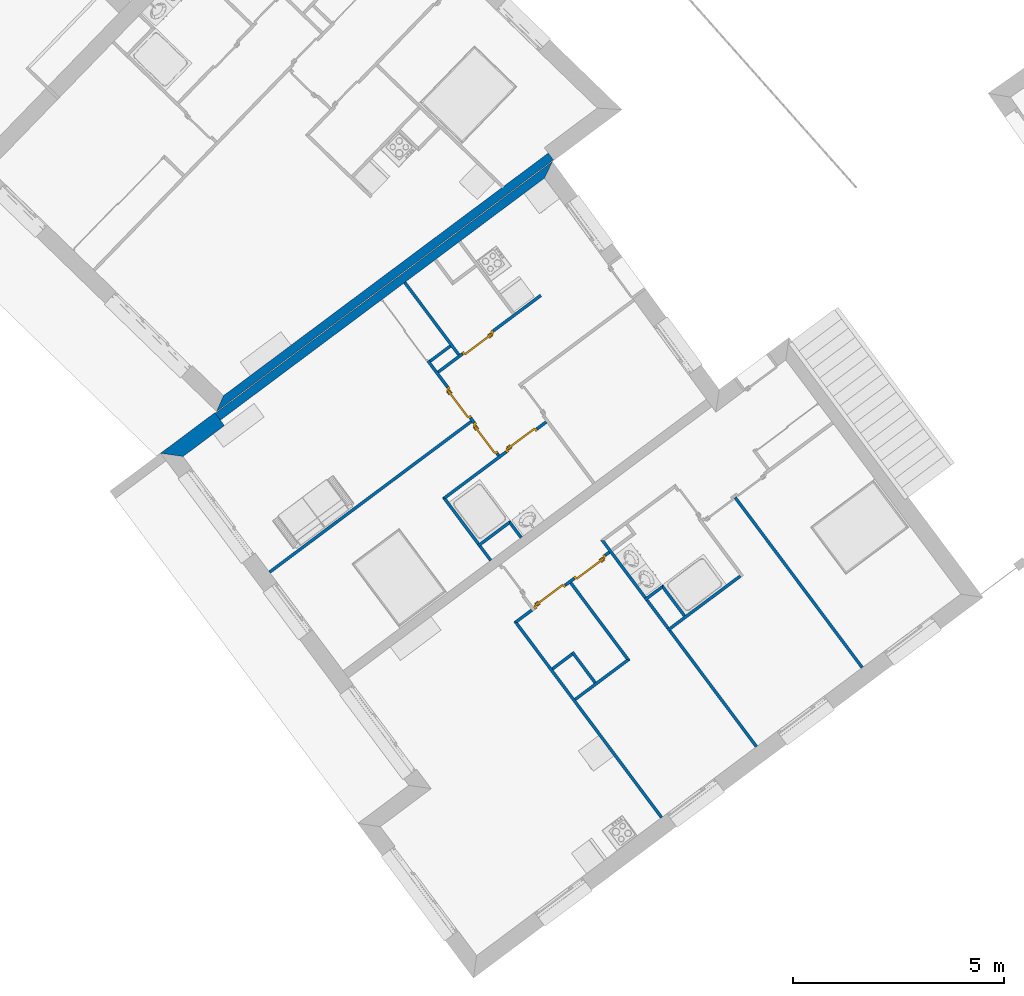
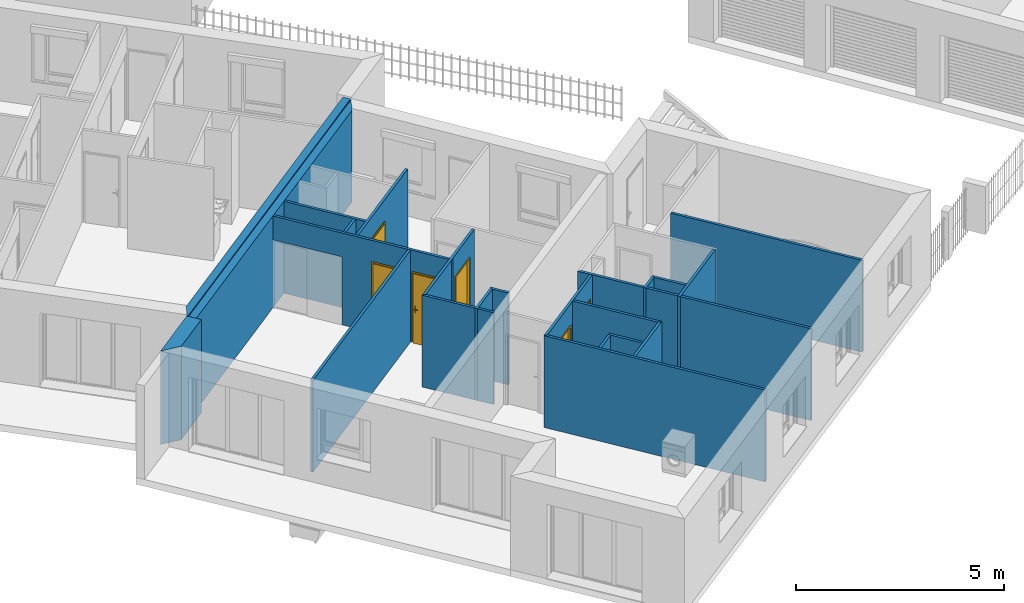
# One storey, part 9 of 195: 23 walls, 6 doors, 7 openings.
"""IFC2X3 building model written with IfcOpenShell, lengths in metres."""

from ifc_helpers import new_model, entity, si_unit, converted_unit, derived_unit, money_unit, direction, frame, origin_with_axes, origin_2d_with_axis, place, context, subcontext, project, spatial, polyline, rectangle, outline, extrude, faceted_brep, source, transform, mapped, material, layer, layer_set, layer_usage, type_object, element, fill, save


model = new_model("IFC2X3")

# Units and contexts
model_context = context("Model", 3, precision=1e-05, world=origin_with_axes(), true_north=direction((0.0, 1.0)))
body_context = subcontext(model_context, "Body", "Model", "MODEL_VIEW")
ifc_project = project(units=[si_unit("LENGTHUNIT", "METRE"), si_unit("AREAUNIT", "SQUARE_METRE"), si_unit("VOLUMEUNIT", "CUBIC_METRE"), converted_unit("PLANEANGLEUNIT", "DEGREE", entity("IfcPlaneAngleMeasure", 0.0174532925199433), si_unit("PLANEANGLEUNIT", "RADIAN"), dimensions=[0, 0, 0, 0, 0, 0, 0]), money_unit("CHF"), converted_unit("TIMEUNIT", "Year", entity("IfcTimeMeasure", 31557600.0), si_unit("TIMEUNIT", "SECOND"), dimensions=[0, 0, 1, 0, 0, 0, 0]), si_unit("MASSUNIT", "GRAM", prefix="KILO"), si_unit("THERMODYNAMICTEMPERATUREUNIT", "DEGREE_CELSIUS"), si_unit("LUMINOUSINTENSITYUNIT", "LUMEN"), si_unit("ENERGYUNIT", "JOULE", prefix="MEGA"), derived_unit("THERMALCONDUCTANCEUNIT", [(si_unit("POWERUNIT", "WATT"), 1), (si_unit("LENGTHUNIT", "METRE"), -1), (si_unit("THERMODYNAMICTEMPERATUREUNIT", "KELVIN"), -1)]), derived_unit("SPECIFICHEATCAPACITYUNIT", [(si_unit("ENERGYUNIT", "JOULE"), 1), (si_unit("MASSUNIT", "GRAM", prefix="KILO"), -1), (si_unit("THERMODYNAMICTEMPERATUREUNIT", "KELVIN"), -1)]), derived_unit("MASSDENSITYUNIT", [(si_unit("MASSUNIT", "GRAM", prefix="KILO"), 1), (si_unit("VOLUMEUNIT", "CUBIC_METRE"), -1)])], contexts=[model_context])

# Site, building, storey
site_placement = place(None, origin_with_axes())
site = spatial("IfcSite", under=ifc_project, at=site_placement, Name="Site", CompositionType="ELEMENT")
building_placement = place(site_placement, origin_with_axes())
building = spatial("IfcBuilding", under=site, at=building_placement, Name="Bâtiment", CompositionType="ELEMENT")
storey_placement = place(building_placement, origin_with_axes())
storey = spatial("IfcBuildingStorey", under=building, at=storey_placement, Name="rdc", CompositionType="ELEMENT", Elevation=0.0)

# Wall, opening, door
ifc_material_1 = material(Name="Hachure solide 268963992")
ifc_layer_1 = layer(ifc_material_1, 0.07, ventilated="UNKNOWN")
ifc_layer_set_1 = layer_set([ifc_layer_1], Name="Cloison 70 0826278243")
ifc_layer_usage_1 = layer_usage(ifc_layer_set_1, "AXIS2", "NEGATIVE", 0.0)
wall_type_1 = type_object("IfcWallType", Name="Cloison 70 0826278243 70", PredefinedType="NOTDEFINED")
wall_1_placement = place(storey_placement, frame((9537.439129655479, -1075.868428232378, 57.7), z_axis=(0.0, 0.0, 1.0), x_axis=(-0.8011628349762, -0.5984464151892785, 0.0)))
wall_1 = element("IfcWallStandardCase", 1, at=wall_1_placement, inside=storey, type_object=wall_type_1, material=ifc_layer_usage_1, Name="Mur-149", context=body_context, shape_type="SweptSolid", body=[
    extrude(outline(polyline([(0.07000000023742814, -0.06999999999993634), (3.116339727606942, -0.06999999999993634), (3.046339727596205, 0.0), (0.07000000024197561, 0.0), (0.07000000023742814, -0.06999999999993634)])), origin_with_axes(), (0.0, 0.0, 1.0), 2.7),
])
opening_1_placement = place(wall_1_placement, frame((0.8014247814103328, 0.0, 0.0), z_axis=(0.0, 0.0, 1.0), x_axis=(1.0, 0.0, 0.0)))
opening_1 = element("IfcOpeningElement", 2, at=opening_1_placement, cuts=wall_1, Name="Por-311", context=body_context, shape_type="SweptSolid", body=[
    extrude(rectangle(XDim=0.9099999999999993, YDim=2.079999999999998, at=origin_2d_with_axis()), frame((0.0, 0.06999999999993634, 1.039999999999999), z_axis=(0.0, -1.0, 0.0), x_axis=(-1.0, 0.0, 0.0)), (0.0, 0.0, 1.0), 0.14),
])
door_style = type_object("IfcDoorStyle", Name="Porte_1v", ConstructionType="NOTDEFINED", OperationType="NOTDEFINED", ParameterTakesPrecedence=False, Sizeable=False)
shared_shape_1 = source(origin_with_axes(), body_context, "Body", "Brep", [
    faceted_brep([(0.455, 0.0, 0.0), (0.415, 0.0, 0.0), (0.415, 0.0, 2.04), (-0.415, 0.0, 2.04), (-0.415, 0.0, 0.0), (-0.455, 0.0, 0.0), (-0.455, 0.0, 2.08), (0.455, 0.0, 2.08), (0.455, -0.07, 0.0), (0.4, -0.07, 0.0), (0.4, -0.015, 0.0), (0.415, -0.015, 0.0), (0.415, -0.015, 2.04), (-0.415, -0.015, 2.04), (-0.415, -0.015, 0.0), (-0.4, -0.015, 0.0), (-0.4, -0.07, 0.0), (-0.455, -0.07, 0.0), (-0.455, -0.07, 2.08), (0.455, -0.07, 2.08), (-0.4, -0.07, 2.025), (0.4, -0.07, 2.025), (0.4, -0.015, 2.025), (-0.4, -0.015, 2.025)], [[[0, 1, 2, 3, 4, 5, 6, 7]], [[0, 8, 9, 10, 11, 1]], [[1, 11, 12, 2]], [[2, 12, 13, 3]], [[3, 13, 14, 4]], [[5, 4, 14, 15, 16, 17]], [[18, 6, 5, 17]], [[19, 7, 6, 18]], [[8, 0, 7, 19]], [[9, 8, 19, 18, 17, 16, 20, 21]], [[10, 9, 21, 22]], [[11, 10, 22, 23, 15, 14, 13, 12]], [[23, 20, 16, 15]], [[22, 21, 20, 23]]]),
    faceted_brep([(-0.35, -0.015, 0.9), (-0.39, -0.015, 0.9), (-0.39, -0.015, 1.1), (-0.35, -0.015, 1.1), (-0.35, -0.025, 0.9), (-0.39, -0.025, 0.9), (-0.39, -0.025, 1.1), (-0.35, -0.025, 1.1)], [[[0, 1, 2, 3]], [[1, 0, 4, 5]], [[2, 1, 5, 6]], [[3, 2, 6, 7]], [[0, 3, 7, 4]], [[5, 4, 7, 6]]]),
    faceted_brep([(-0.28, -0.025, 1.0), (-0.38, -0.025, 1.0), (-0.38, -0.025, 1.02), (-0.28, -0.025, 1.02), (-0.28, -0.045, 1.0), (-0.38, -0.045, 1.0), (-0.38, -0.045, 1.02), (-0.28, -0.045, 1.02)], [[[0, 1, 2, 3]], [[1, 0, 4, 5]], [[2, 1, 5, 6]], [[3, 2, 6, 7]], [[0, 3, 7, 4]], [[5, 4, 7, 6]]]),
    faceted_brep([(-0.35, 0.035, 0.9), (-0.39, 0.035, 0.9), (-0.39, 0.035, 1.1), (-0.35, 0.035, 1.1), (-0.35, 0.025, 0.9), (-0.39, 0.025, 0.9), (-0.39, 0.025, 1.1), (-0.35, 0.025, 1.1)], [[[0, 1, 2, 3]], [[1, 0, 4, 5]], [[2, 1, 5, 6]], [[3, 2, 6, 7]], [[0, 3, 7, 4]], [[5, 4, 7, 6]]]),
    faceted_brep([(-0.28, 0.05500000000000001, 1.0), (-0.38, 0.05500000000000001, 1.0), (-0.38, 0.05500000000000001, 1.02), (-0.28, 0.05500000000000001, 1.02), (-0.28, 0.035, 1.0), (-0.38, 0.035, 1.0), (-0.38, 0.035, 1.02), (-0.28, 0.035, 1.02)], [[[0, 1, 2, 3]], [[1, 0, 4, 5]], [[2, 1, 5, 6]], [[3, 2, 6, 7]], [[0, 3, 7, 4]], [[5, 4, 7, 6]]]),
    faceted_brep([(-0.415, 0.025, 0.0), (0.415, 0.025, 0.0), (0.415, -0.015, 0.0), (-0.415, -0.015, 0.0), (-0.415, 0.025, 2.04), (0.415, 0.025, 2.04), (0.415, -0.015, 2.04), (-0.415, -0.015, 2.04)], [[[0, 1, 2, 3]], [[0, 4, 5, 1]], [[1, 5, 6, 2]], [[3, 2, 6, 7]], [[4, 0, 3, 7]], [[5, 4, 7, 6]]]),
])
door_1_placement = place(opening_1_placement, frame((0.4149999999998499, 0.0, 0.0), z_axis=(0.0, 0.0, 1.0), x_axis=(-1.0, 0.0, 0.0)))
door_1 = element("IfcDoor", 3, at=door_1_placement, inside=storey, type_object=door_style, Name="Por-311", OverallHeight=2.04, OverallWidth=0.83, context=body_context, shape_type="MappedRepresentation", body=[
    mapped(shared_shape_1, transform((0.4149999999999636, 0.07000000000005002, 0.0))),
])
fill(opening_1, door_1)

ifc_layer_usage_2 = layer_usage(ifc_layer_set_1, "AXIS2", "NEGATIVE", 0.0)
wall_2_placement = place(storey_placement, frame((9537.252719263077, -1072.918663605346, 57.7), z_axis=(0.0, 0.0, 1.0), x_axis=(-0.8011628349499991, -0.5984464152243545, 0.0)))
wall_2 = element("IfcWallStandardCase", 4, at=wall_2_placement, inside=storey, type_object=wall_type_1, material=ifc_layer_usage_2, Name="Mur-149", context=body_context, shape_type="SweptSolid", body=[
    extrude(outline(polyline([(0.0, -0.07000000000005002), (3.027910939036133, -0.07000000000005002), (3.027910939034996, 0.0), (0.0, 0.0), (0.0, -0.07000000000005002)])), origin_with_axes(), (0.0, 0.0, 1.0), 2.7),
])
opening_2_placement = place(wall_2_placement, frame((1.855514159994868, 0.0, 0.0), z_axis=(0.0, 0.0, 1.0), x_axis=(1.0, 0.0, 0.0)))
opening_2 = element("IfcOpeningElement", 5, at=opening_2_placement, cuts=wall_2, Name="Por-309", context=body_context, shape_type="SweptSolid", body=[
    extrude(rectangle(XDim=0.9099999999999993, YDim=2.079999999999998, at=origin_2d_with_axis()), frame((0.0, -0.06999999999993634, 1.039999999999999), z_axis=(0.0, 1.0, 0.0), x_axis=(1.0, 0.0, 0.0)), (0.0, 0.0, 1.0), 0.14),
])
door_2_placement = place(opening_2_placement, frame((-0.4150000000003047, 0.0, 0.0), z_axis=(0.0, 0.0, 1.0), x_axis=(1.0, 0.0, 0.0)))
door_2 = element("IfcDoor", 6, at=door_2_placement, inside=storey, type_object=door_style, Name="Por-309", OverallHeight=2.04, OverallWidth=0.83, context=body_context, shape_type="MappedRepresentation", body=[
    mapped(shared_shape_1, transform((0.4149999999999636, 0.0, 0.0))),
])
fill(opening_2, door_2)

# Walls
ifc_layer_usage_3 = layer_usage(ifc_layer_set_1, "AXIS2", "NEGATIVE", 0.0)
wall_3_placement = place(storey_placement, frame((9535.667445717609, -1075.856017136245, 57.7), z_axis=(0.0, 0.0, 1.0), x_axis=(-0.8011628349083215, -0.59844641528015, 0.0)))
element("IfcWallStandardCase", 7, at=wall_3_placement, inside=storey, type_object=wall_type_1, material=ifc_layer_usage_3, Name="Mur-149", context=body_context, shape_type="SweptSolid", body=[
    extrude(outline(polyline([(0.0700000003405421, -0.06999999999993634), (6.027147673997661, -0.06999999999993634), (6.027147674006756, 0.0), (0.07000000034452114, 0.0), (0.0700000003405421, -0.06999999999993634)])), origin_with_axes(), (0.0, 0.0, 1.0), 2.7),
])
ifc_layer_usage_4 = layer_usage(ifc_layer_set_1, "AXIS2", "POSITIVE", 0.0)
wall_4_placement = place(storey_placement, frame((9539.715668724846, -1080.115474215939, 57.7), z_axis=(0.0, 0.0, 1.0), x_axis=(0.8011628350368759, 0.5984464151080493, 0.0)))
element("IfcWallStandardCase", 8, at=wall_4_placement, inside=storey, type_object=wall_type_1, material=ifc_layer_usage_4, Name="Mur-149", context=body_context, shape_type="SweptSolid", body=[
    extrude(outline(polyline([(0.0, 0.0), (0.487013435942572, 0.0), (0.5570134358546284, 0.06999999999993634), (0.0, 0.06999999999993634), (0.0, 0.0)])), origin_with_axes(), (0.0, 0.0, 1.0), 2.7),
])
ifc_layer_usage_5 = layer_usage(ifc_layer_set_1, "AXIS2", "POSITIVE", 0.0)
wall_5_placement = place(storey_placement, frame((9537.871478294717, -1079.65177875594, 57.7), z_axis=(0.0, 0.0, 1.0), x_axis=(0.598446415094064, -0.8011628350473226, 0.0)))
element("IfcWallStandardCase", 9, at=wall_5_placement, inside=storey, type_object=wall_type_1, material=ifc_layer_usage_5, Name="Mur-149", context=body_context, shape_type="SweptSolid", body=[
    extrude(outline(polyline([(0.07000000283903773, 0.0), (2.305144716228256, 0.0), (2.375144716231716, 0.06999999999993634), (0.07000000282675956, 0.06999999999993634), (0.07000000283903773, 0.0)])), origin_with_axes(), (0.0, 0.0, 1.0), 2.7),
])
ifc_layer_usage_6 = layer_usage(ifc_layer_set_1, "AXIS2", "NEGATIVE", 0.0)
wall_6_placement = place(storey_placement, frame((9538.00662645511, -1081.304708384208, 57.7), z_axis=(0.0, 0.0, 1.0), x_axis=(0.59844641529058, -0.8011628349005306, 0.0)))
element("IfcWallStandardCase", 10, at=wall_6_placement, inside=storey, type_object=wall_type_1, material=ifc_layer_usage_6, Name="Mur-149", context=body_context, shape_type="SweptSolid", body=[
    extrude(outline(polyline([(0.0, -0.06999999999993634), (0.8999999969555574, -0.06999999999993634), (0.8999999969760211, 0.0), (0.0, 0.0), (0.0, -0.06999999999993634)])), origin_with_axes(), (0.0, 0.0, 1.0), 2.7),
])
ifc_layer_usage_7 = layer_usage(ifc_layer_set_1, "AXIS2", "NEGATIVE", 0.0)
wall_7_placement = place(storey_placement, frame((9538.697378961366, -1078.635281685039, 57.7), z_axis=(0.0, 0.0, 1.0), x_axis=(0.5984464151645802, -0.8011628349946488, 0.0)))
element("IfcWallStandardCase", 11, at=wall_7_placement, inside=storey, type_object=wall_type_1, material=ifc_layer_usage_7, Name="Mur-149", context=body_context, shape_type="SweptSolid", body=[
    extrude(outline(polyline([(0.0, -0.06999999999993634), (6.119914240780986, -0.06999999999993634), (6.119914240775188, 0.0), (0.06999999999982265, 0.0), (0.0, -0.06999999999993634)])), origin_with_axes(), (0.0, 0.0, 1.0), 2.7),
])
ifc_layer_usage_8 = layer_usage(ifc_layer_set_1, "AXIS2", "POSITIVE", 0.0)
wall_8_placement = place(storey_placement, frame((9539.250983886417, -1081.498575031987, 57.7), z_axis=(0.0, 0.0, 1.0), x_axis=(-0.8011628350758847, -0.5984464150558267, 0.0)))
element("IfcWallStandardCase", 12, at=wall_8_placement, inside=storey, type_object=wall_type_1, material=ifc_layer_usage_8, Name="Mur-149", context=body_context, shape_type="SweptSolid", body=[
    extrude(outline(polyline([(0.0, 0.0), (1.530000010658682, 0.0), (1.530000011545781, 0.06999999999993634), (-0.07000000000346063, 0.06999999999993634), (0.0, 0.0)])), origin_with_axes(), (0.0, 0.0, 1.0), 2.7),
])
ifc_layer_usage_9 = layer_usage(ifc_layer_set_1, "AXIS2", "NEGATIVE", 0.0)
wall_9_placement = place(storey_placement, frame((9540.212379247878, -1080.780439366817, 57.7), z_axis=(0.0, 0.0, 1.0), x_axis=(0.8011628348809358, 0.5984464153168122, 0.0)))
element("IfcWallStandardCase", 13, at=wall_9_placement, inside=storey, type_object=wall_type_1, material=ifc_layer_usage_9, Name="Mur-149", context=body_context, shape_type="SweptSolid", body=[
    extrude(outline(polyline([(0.0, -0.07000000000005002), (2.142148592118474, -0.07000000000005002), (2.142148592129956, 0.0), (0.0, 0.0), (0.0, -0.07000000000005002)])), origin_with_axes(), (0.0, 0.0, 1.0), 2.7),
])
ifc_layer_usage_10 = layer_usage(ifc_layer_set_1, "AXIS2", "NEGATIVE", 0.0)
wall_10_placement = place(storey_placement, frame((9541.815128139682, -1077.592040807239, 57.7), z_axis=(0.0, 0.0, 1.0), x_axis=(0.598446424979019, -0.8011628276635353, 0.0)))
element("IfcWallStandardCase", 14, at=wall_10_placement, inside=storey, type_object=wall_type_1, material=ifc_layer_usage_10, Name="Mur-149", context=body_context, shape_type="SweptSolid", body=[
    extrude(outline(polyline([(0.06999999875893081, -0.06999999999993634), (5.089914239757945, -0.06999999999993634), (5.089914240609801, 0.0), (0.06999999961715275, 0.0), (0.06999999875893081, -0.06999999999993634)])), origin_with_axes(), (0.0, 0.0, 1.0), 2.7),
])
ifc_layer_usage_11 = layer_usage(ifc_layer_set_1, "AXIS2", "POSITIVE", 0.0)
wall_11_placement = place(storey_placement, frame((9540.105845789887, -1079.824022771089, 57.7), z_axis=(0.0, 0.0, 1.0), x_axis=(0.5984464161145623, -0.8011628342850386, 0.0)))
element("IfcWallStandardCase", 15, at=wall_11_placement, inside=storey, type_object=wall_type_1, material=ifc_layer_usage_11, Name="Mur-149", context=body_context, shape_type="SweptSolid", body=[
    extrude(outline(polyline([(0.0, 0.0), (0.8299999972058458, 0.0), (0.8299999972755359, 0.06999999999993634), (-0.06999999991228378, 0.06999999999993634), (0.0, 0.0)])), origin_with_axes(), (0.0, 0.0, 1.0), 2.7),
])

# Wall, openings, doors
ifc_layer_usage_12 = layer_usage(ifc_layer_set_1, "AXIS2", "NEGATIVE", 0.0)
wall_12_placement = place(storey_placement, frame((9536.645699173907, -1080.567401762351, 57.7), z_axis=(0.0, 0.0, 1.0), x_axis=(0.8011628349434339, 0.5984464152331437, 0.0)))
wall_12 = element("IfcWallStandardCase", 16, at=wall_12_placement, inside=storey, type_object=wall_type_1, material=ifc_layer_usage_12, Name="Mur-149", context=body_context, shape_type="SweptSolid", body=[
    extrude(outline(polyline([(-9.023324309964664e-10, -0.07000000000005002), (2.729999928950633, -0.07000000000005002), (2.729999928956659, 0.0), (-0.06999999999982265, 0.0), (-9.023324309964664e-10, -0.07000000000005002)])), origin_with_axes(), (0.0, 0.0, 1.0), 2.7),
])
opening_3_placement = place(wall_12_placement, frame((2.150722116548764, 0.0, 0.0), z_axis=(0.0, 0.0, 1.0), x_axis=(1.0, 0.0, 0.0)))
opening_3 = element("IfcOpeningElement", 17, at=opening_3_placement, cuts=wall_12, Name="Por-308", context=body_context, shape_type="SweptSolid", body=[
    extrude(rectangle(XDim=0.9099999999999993, YDim=2.079999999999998, at=origin_2d_with_axis()), frame((0.0, 0.07000000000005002, 1.039999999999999), z_axis=(0.0, -1.0, 0.0), x_axis=(-1.0, 0.0, 0.0)), (0.0, 0.0, 1.0), 0.14),
])
opening_4_placement = place(wall_12_placement, frame((0.9704286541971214, 0.0, 0.0), z_axis=(0.0, 0.0, 1.0), x_axis=(1.0, 0.0, 0.0)))
opening_4 = element("IfcOpeningElement", 18, at=opening_4_placement, cuts=wall_12, Name="Por-308", context=body_context, shape_type="SweptSolid", body=[
    extrude(rectangle(XDim=0.9099999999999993, YDim=2.079999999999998, at=origin_2d_with_axis()), frame((0.0, -0.07000000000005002, 1.039999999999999), z_axis=(0.0, 1.0, 0.0), x_axis=(1.0, 0.0, 0.0)), (0.0, 0.0, 1.0), 0.14),
])
door_3_placement = place(opening_4_placement, frame((-0.4149999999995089, 0.0, 0.0), z_axis=(0.0, 0.0, 1.0), x_axis=(1.0, 0.0, 0.0)))
door_3 = element("IfcDoor", 19, at=door_3_placement, inside=storey, type_object=door_style, Name="Por-308", OverallHeight=2.04, OverallWidth=0.83, context=body_context, shape_type="MappedRepresentation", body=[
    mapped(shared_shape_1, transform((0.4149999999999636, 0.0, 0.0))),
])
fill(opening_4, door_3)
door_4_placement = place(opening_3_placement, frame((0.4149999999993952, 0.0, 0.0), z_axis=(0.0, 0.0, 1.0), x_axis=(-1.0, 0.0, 0.0)))
door_4 = element("IfcDoor", 20, at=door_4_placement, inside=storey, type_object=door_style, Name="Por-308", OverallHeight=2.04, OverallWidth=0.83, context=body_context, shape_type="MappedRepresentation", body=[
    mapped(shared_shape_1, transform((0.4149999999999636, 0.06999999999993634, 0.0))),
])
fill(opening_3, door_4)

# Walls
ifc_layer_usage_13 = layer_usage(ifc_layer_set_1, "AXIS2", "NEGATIVE", 0.0)
wall_13_placement = place(storey_placement, frame((9536.645699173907, -1080.567401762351, 57.7), z_axis=(0.0, 0.0, 1.0), x_axis=(0.5984464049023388, -0.8011628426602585, 0.0)))
element("IfcWallStandardCase", 21, at=wall_13_placement, inside=storey, type_object=wall_type_1, material=ifc_layer_usage_13, Name="Mur-149", context=body_context, shape_type="SweptSolid", body=[
    extrude(outline(polyline([(9.027871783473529e-10, -0.06999999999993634), (5.799791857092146, -0.07000000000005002), (5.799791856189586, 0.0), (0.07000000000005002, 0.0), (9.027871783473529e-10, -0.06999999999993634)])), origin_with_axes(), (0.0, 0.0, 1.0), 2.7),
])
ifc_layer_usage_14 = layer_usage(ifc_layer_set_1, "AXIS2", "NEGATIVE", 0.0)
wall_14_placement = place(storey_placement, frame((9538.04851770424, -1081.360789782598, 57.7), z_axis=(0.0, 0.0, 1.0), x_axis=(-0.8011628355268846, -0.5984464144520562, 0.0)))
element("IfcWallStandardCase", 22, at=wall_14_placement, inside=storey, type_object=wall_type_1, material=ifc_layer_usage_14, Name="Mur-149", context=body_context, shape_type="SweptSolid", body=[
    extrude(outline(polyline([(0.07000000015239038, -0.06999999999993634), (0.6490858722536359, -0.06999999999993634), (0.6490858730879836, 0.0), (0.07000000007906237, 0.0), (0.07000000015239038, -0.06999999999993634)])), origin_with_axes(), (0.0, 0.0, 1.0), 2.7),
])
ifc_layer_usage_15 = layer_usage(ifc_layer_set_1, "AXIS2", "NEGATIVE", 0.0)
wall_15_placement = place(storey_placement, frame((9534.04377111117, -1072.562777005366, 57.7), z_axis=(0.0, 0.0, 1.0), x_axis=(0.5984464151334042, -0.8011628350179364, 0.0)))
element("IfcWallStandardCase", 23, at=wall_15_placement, inside=storey, type_object=wall_type_1, material=ifc_layer_usage_15, Name="Mur-149", context=body_context, shape_type="SweptSolid", body=[
    extrude(outline(polyline([(0.0, -0.06999999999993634), (2.135506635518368, -0.07000000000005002), (2.13550663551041, 0.0), (0.0, 0.0), (0.0, -0.06999999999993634)])), origin_with_axes(), (0.0, 0.0, 1.0), 2.7),
])
ifc_layer_usage_16 = layer_usage(ifc_layer_set_1, "AXIS2", "NEGATIVE", 0.0)
wall_16_placement = place(storey_placement, frame((9536.490941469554, -1078.302541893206, 57.7), z_axis=(0.0, 0.0, 1.0), x_axis=(-0.8011628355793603, -0.5984464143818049, 0.0)))
element("IfcWallStandardCase", 24, at=wall_16_placement, inside=storey, type_object=wall_type_1, material=ifc_layer_usage_16, Name="Mur-149", context=body_context, shape_type="SweptSolid", body=[
    extrude(outline(polyline([(-0.06999999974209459, -0.07000000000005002), (0.9000166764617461, -0.07000000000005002), (0.9000166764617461, 0.0), (0.0, 0.0), (-0.06999999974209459, -0.07000000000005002)])), origin_with_axes(), (0.0, 0.0, 1.0), 2.7),
])
ifc_layer_usage_17 = layer_usage(ifc_layer_set_1, "AXIS2", "NEGATIVE", 0.0)
wall_17_placement = place(storey_placement, frame((9536.740501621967, -1078.636637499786, 57.7), z_axis=(0.0, 0.0, 1.0), x_axis=(-0.5984464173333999, 0.8011628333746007, 0.0)))
element("IfcWallStandardCase", 25, at=wall_17_placement, inside=storey, type_object=wall_type_1, material=ifc_layer_usage_17, Name="Mur-149", context=body_context, shape_type="SweptSolid", body=[
    extrude(outline(polyline([(-5.088622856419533e-10, -0.06999999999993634), (0.4870133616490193, -0.07000000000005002), (0.417013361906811, 0.0), (-3.199147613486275e-10, 0.0), (-5.088622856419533e-10, -0.06999999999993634)])), origin_with_axes(), (0.0, 0.0, 1.0), 2.7),
])
ifc_layer_usage_18 = layer_usage(ifc_layer_set_1, "AXIS2", "NEGATIVE", 0.0)
wall_18_placement = place(storey_placement, frame((9534.998515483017, -1077.691499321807, 57.7), z_axis=(0.0, 0.0, 1.0), x_axis=(0.5984464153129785, -0.8011628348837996, 0.0)))
element("IfcWallStandardCase", 26, at=wall_18_placement, inside=storey, type_object=wall_type_1, material=ifc_layer_usage_18, Name="Mur-149", context=body_context, shape_type="SweptSolid", body=[
    extrude(outline(polyline([(-0.07000000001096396, -0.06999999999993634), (1.799694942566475, -0.06999999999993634), (1.799694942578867, 0.0), (0.0, 0.0), (-0.07000000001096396, -0.06999999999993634)])), origin_with_axes(), (0.0, 0.0, 1.0), 2.7),
])
ifc_layer_usage_19 = layer_usage(ifc_layer_set_1, "AXIS2", "NEGATIVE", 0.0)
wall_19_placement = place(storey_placement, frame((9535.1721457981, -1074.07337484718, 57.7), z_axis=(0.0, 0.0, 1.0), x_axis=(-0.8011628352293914, -0.5984464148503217, 0.0)))
element("IfcWallStandardCase", 27, at=wall_19_placement, inside=storey, type_object=wall_type_1, material=ifc_layer_usage_19, Name="Mur-149", context=body_context, shape_type="SweptSolid", body=[
    extrude(outline(polyline([(0.07000000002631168, -0.07000000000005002), (0.6700000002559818, -0.07000000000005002), (0.6700000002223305, 0.0), (0.07000000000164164, 0.0), (0.07000000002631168, -0.07000000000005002)])), origin_with_axes(), (0.0, 0.0, 1.0), 2.7),
])

# Wall, openings, doors
ifc_layer_usage_20 = layer_usage(ifc_layer_set_1, "AXIS2", "NEGATIVE", 0.0)
wall_20_placement = place(storey_placement, frame((9533.50699201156, -1072.963736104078, 57.7), z_axis=(0.0, 0.0, 1.0), x_axis=(0.5984464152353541, -0.8011628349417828, 0.0)))
wall_20 = element("IfcWallStandardCase", 28, at=wall_20_placement, inside=storey, type_object=wall_type_1, material=ifc_layer_usage_20, Name="Mur-149", context=body_context, shape_type="SweptSolid", body=[
    extrude(outline(polyline([(0.0, -0.06999999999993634), (4.682283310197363, -0.06999999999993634), (4.682283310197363, 0.0), (0.0, 0.0), (0.0, -0.06999999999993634)])), origin_with_axes(), (0.0, 0.0, 1.0), 2.7),
])
opening_5_placement = place(wall_20_placement, frame((3.043617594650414, 0.0, 0.0), z_axis=(0.0, 0.0, 1.0), x_axis=(1.0, 0.0, 0.0)))
opening_5 = element("IfcOpeningElement", 29, at=opening_5_placement, cuts=wall_20, Name="Por-310", context=body_context, shape_type="SweptSolid", body=[
    extrude(rectangle(XDim=0.9099999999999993, YDim=2.079999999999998, at=origin_2d_with_axis()), frame((0.0, 0.07000000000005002, 1.039999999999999), z_axis=(0.0, 1.0, 0.0), x_axis=(1.0, 0.0, 0.0)), (0.0, 0.0, -1.0), 0.14),
])
opening_6_placement = place(wall_20_placement, frame((4.093552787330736, 0.0, 0.0), z_axis=(0.0, 0.0, 1.0), x_axis=(1.0, 0.0, 0.0)))
opening_6 = element("IfcOpeningElement", 30, at=opening_6_placement, cuts=wall_20, Name="Por-310", context=body_context, shape_type="SweptSolid", body=[
    extrude(rectangle(XDim=0.9099999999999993, YDim=2.079999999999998, at=origin_2d_with_axis()), frame((0.0, 0.07000000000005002, 1.039999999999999), z_axis=(0.0, 1.0, 0.0), x_axis=(1.0, 0.0, 0.0)), (0.0, 0.0, -1.0), 0.14),
])
opening_7_placement = place(wall_20_placement, frame((0.9077533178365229, 0.0, 0.0), z_axis=(0.0, 0.0, 1.0), x_axis=(1.0, 0.0, 0.0)))
element("IfcOpeningElement", 31, at=opening_7_placement, cuts=wall_20, Name="Por-343", context=body_context, shape_type="SweptSolid", body=[
    extrude(rectangle(XDim=1.81550663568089, YDim=2.0, at=origin_2d_with_axis()), frame((0.0, -0.07000000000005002, 1.0), z_axis=(0.0, 1.0, 0.0), x_axis=(1.0, 0.0, 0.0)), (0.0, 0.0, -1.0), 0.07),
    extrude(rectangle(XDim=1.81550663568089, YDim=2.0, at=origin_2d_with_axis()), frame((0.0, -0.07000000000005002, 1.0), z_axis=(0.0, -1.0, 0.0), x_axis=(1.0, 0.0, 0.0)), (0.0, 0.0, -1.0), 0.07),
])
shared_shape_2 = source(origin_with_axes(), body_context, "Body", "Brep", [
    faceted_brep([(-0.455, 0.0, 0.0), (-0.455, 0.0, 2.08), (0.455, 0.0, 2.08), (0.455, 0.0, 0.0), (0.415, 0.0, 0.0), (0.415, 0.0, 2.04), (-0.415, 0.0, 2.04), (-0.415, 0.0, 0.0), (-0.455, -0.07, 0.0), (-0.455, -0.07, 2.08), (0.455, -0.07, 2.08), (0.455, -0.07, 0.0), (0.4, -0.07, 0.0), (0.4, -0.015, 0.0), (0.415, -0.015, 0.0), (0.415, -0.015, 2.04), (-0.415, -0.015, 2.04), (-0.415, -0.015, 0.0), (-0.4, -0.015, 0.0), (-0.4, -0.07, 0.0), (-0.4, -0.07, 2.025), (0.4, -0.07, 2.025), (0.4, -0.015, 2.025), (-0.4, -0.015, 2.025)], [[[0, 1, 2, 3, 4, 5, 6, 7]], [[8, 9, 1, 0]], [[9, 10, 2, 1]], [[10, 11, 3, 2]], [[3, 11, 12, 13, 14, 4]], [[5, 4, 14, 15]], [[6, 5, 15, 16]], [[7, 6, 16, 17]], [[0, 7, 17, 18, 19, 8]], [[19, 20, 21, 12, 11, 10, 9, 8]], [[22, 13, 12, 21]], [[17, 16, 15, 14, 13, 22, 23, 18]], [[18, 23, 20, 19]], [[23, 22, 21, 20]]]),
    faceted_brep([(0.35, -0.015, 0.9), (0.35, -0.015, 1.1), (0.39, -0.015, 1.1), (0.39, -0.015, 0.9), (0.35, -0.025, 0.9), (0.35, -0.025, 1.1), (0.39, -0.025, 1.1), (0.39, -0.025, 0.9)], [[[0, 1, 2, 3]], [[0, 4, 5, 1]], [[1, 5, 6, 2]], [[2, 6, 7, 3]], [[3, 7, 4, 0]], [[7, 6, 5, 4]]]),
    faceted_brep([(0.28, -0.025, 1.0), (0.28, -0.025, 1.02), (0.38, -0.025, 1.02), (0.38, -0.025, 1.0), (0.28, -0.045, 1.0), (0.28, -0.045, 1.02), (0.38, -0.045, 1.02), (0.38, -0.045, 1.0)], [[[0, 1, 2, 3]], [[0, 4, 5, 1]], [[1, 5, 6, 2]], [[2, 6, 7, 3]], [[3, 7, 4, 0]], [[7, 6, 5, 4]]]),
    faceted_brep([(0.35, 0.035, 0.9), (0.35, 0.035, 1.1), (0.39, 0.035, 1.1), (0.39, 0.035, 0.9), (0.35, 0.025, 0.9), (0.35, 0.025, 1.1), (0.39, 0.025, 1.1), (0.39, 0.025, 0.9)], [[[0, 1, 2, 3]], [[0, 4, 5, 1]], [[1, 5, 6, 2]], [[2, 6, 7, 3]], [[3, 7, 4, 0]], [[7, 6, 5, 4]]]),
    faceted_brep([(0.28, 0.05500000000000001, 1.0), (0.28, 0.05500000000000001, 1.02), (0.38, 0.05500000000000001, 1.02), (0.38, 0.05500000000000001, 1.0), (0.28, 0.035, 1.0), (0.28, 0.035, 1.02), (0.38, 0.035, 1.02), (0.38, 0.035, 1.0)], [[[0, 1, 2, 3]], [[0, 4, 5, 1]], [[1, 5, 6, 2]], [[2, 6, 7, 3]], [[3, 7, 4, 0]], [[7, 6, 5, 4]]]),
    faceted_brep([(0.415, 0.025, 0.0), (0.415, -0.015, 0.0), (-0.415, -0.015, 0.0), (-0.415, 0.025, 0.0), (0.415, 0.025, 2.04), (0.415, -0.015, 2.04), (-0.415, -0.015, 2.04), (-0.415, 0.025, 2.04)], [[[0, 1, 2, 3]], [[4, 5, 1, 0]], [[1, 5, 6, 2]], [[3, 2, 6, 7]], [[0, 3, 7, 4]], [[7, 6, 5, 4]]]),
])
door_5_placement = place(opening_5_placement, frame((0.4150000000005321, 0.0, 0.0), z_axis=(0.0, 0.0, 1.0), x_axis=(-1.0, 0.0, 0.0)))
door_5 = element("IfcDoor", 32, at=door_5_placement, inside=storey, type_object=door_style, Name="Por-310", OverallHeight=2.04, OverallWidth=0.83, context=body_context, shape_type="MappedRepresentation", body=[
    mapped(shared_shape_2, transform((0.4149999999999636, 0.07000000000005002, 0.0))),
])
fill(opening_5, door_5)
door_6_placement = place(opening_6_placement, frame((0.4150000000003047, 0.0, 0.0), z_axis=(0.0, 0.0, 1.0), x_axis=(-1.0, 0.0, 0.0)))
door_6 = element("IfcDoor", 33, at=door_6_placement, inside=storey, type_object=door_style, Name="Por-310", OverallHeight=2.04, OverallWidth=0.83, context=body_context, shape_type="MappedRepresentation", body=[
    mapped(shared_shape_2, transform((0.4149999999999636, 0.06999999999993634, 0.0))),
])
fill(opening_6, door_6)

# Walls
ifc_material_2 = material(Name="Parpaing 312445824")
ifc_layer_2 = layer(ifc_material_2, 0.22, ventilated="UNKNOWN")
ifc_material_3 = material(Name="Isolant styromousse 301821074")
ifc_layer_3 = layer(ifc_material_3, 0.16, ventilated="UNKNOWN")
ifc_layer_set_2 = layer_set([ifc_layer_2, ifc_layer_3], Name="isol int 22+16 0836643197")
ifc_layer_usage_21 = layer_usage(ifc_layer_set_2, "AXIS2", "POSITIVE", 0.0)
wall_type_2 = type_object("IfcWallType", Name="isol int 22+16 0836643197 380", PredefinedType="NOTDEFINED")
wall_21_placement = place(storey_placement, frame((9529.523894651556, -1075.664398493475, 57.7), z_axis=(0.0, 0.0, 1.0), x_axis=(-0.8011628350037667, -0.5984464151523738, 0.0)))
element("IfcWallStandardCase", 34, at=wall_21_placement, inside=storey, type_object=wall_type_2, material=ifc_layer_usage_21, Name="Mur-113", context=body_context, shape_type="SweptSolid", body=[
    extrude(outline(polyline([(0.0, 0.0), (1.599836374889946, 0.0), (1.219836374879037, 0.3799999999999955), (0.0, 0.3799999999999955), (0.0, 0.0)])), origin_with_axes(), (0.0, 0.0, 1.0), 2.75),
])
ifc_material_4 = material(Name="Parpaing 314940890")
ifc_layer_4 = layer(ifc_material_4, 0.2, ventilated="UNKNOWN")
ifc_layer_set_3 = layer_set([ifc_layer_4], Name="Beton  20")
ifc_layer_usage_22 = layer_usage(ifc_layer_set_3, "AXIS2", "POSITIVE", 0.0)
wall_type_3 = type_object("IfcWallType", Name="Beton  20 200", PredefinedType="NOTDEFINED")
wall_22_placement = place(storey_placement, frame((9537.508635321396, -1069.724982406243, 57.7), z_axis=(0.0, 0.0, 1.0), x_axis=(-0.8011628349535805, -0.5984464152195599, 0.0)))
element("IfcWallStandardCase", 35, at=wall_22_placement, inside=storey, type_object=wall_type_3, material=ifc_layer_usage_22, Name="Mur-105", context=body_context, shape_type="SweptSolid", body=[
    extrude(outline(polyline([(0.0, 0.0), (9.951934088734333, 0.0), (9.95193408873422, 0.2000000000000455), (0.3820705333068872, 0.2000000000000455), (0.0, 0.0)])), origin_with_axes(), (0.0, 0.0, 1.0), 2.7),
])
ifc_layer_usage_23 = layer_usage(ifc_layer_set_3, "AXIS2", "POSITIVE", 0.0)
wall_23_placement = place(storey_placement, frame((9537.4097362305, -1069.524270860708, 57.7), z_axis=(0.0, 0.0, 1.0), x_axis=(-0.8011628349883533, -0.5984464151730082, 0.0)))
element("IfcWallStandardCase", 36, at=wall_23_placement, inside=storey, type_object=wall_type_3, material=ifc_layer_usage_23, Name="Mur-105", context=body_context, shape_type="SweptSolid", body=[
    extrude(outline(polyline([(0.0, 0.0), (9.586871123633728, 0.0), (9.939566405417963, 0.1999999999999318), (0.0, 0.1999999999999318), (0.0, 0.0)])), origin_with_axes(), (0.0, 0.0, 1.0), 2.7),
])

save(model, "model.ifc")
